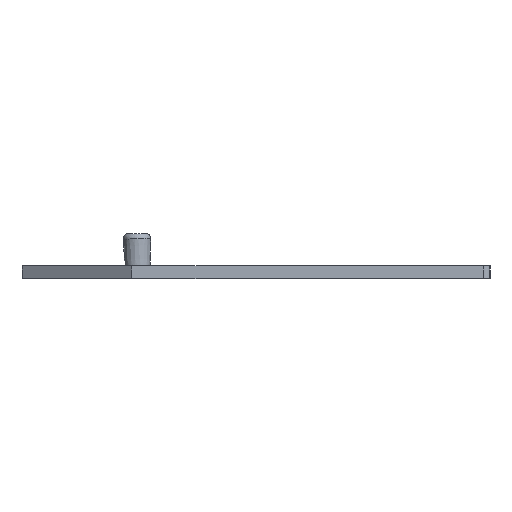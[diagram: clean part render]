
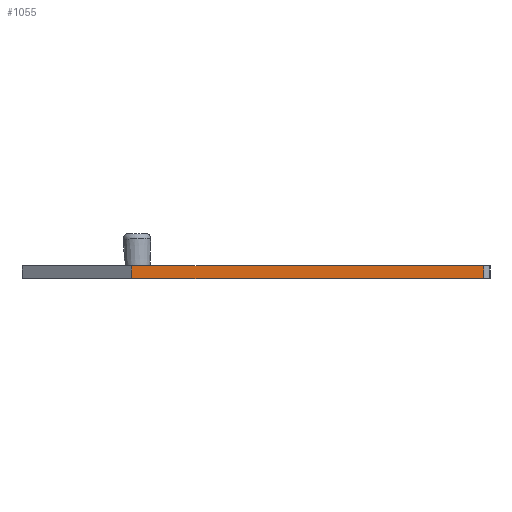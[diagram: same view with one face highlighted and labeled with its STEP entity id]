
A CAD part, left-side view. The second image highlights one B-rep face of the part: STEP entity #1055.
In plain terms, the highlighted planar face has unit normal (-1, 0, 0).
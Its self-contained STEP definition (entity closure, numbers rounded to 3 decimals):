
#1055 = ADVANCED_FACE('',(#1056),#1070,.F.);
#1056 = FACE_BOUND('',#1057,.T.);
#1057 = EDGE_LOOP('',(#1058,#1081,#1097,#1113));
#1058 = ORIENTED_EDGE('',*,*,#1059,.T.);
#1059 = EDGE_CURVE('',#1060,#1062,#1064,.T.);
#1060 = VERTEX_POINT('',#1061);
#1061 = CARTESIAN_POINT('',(7752.136,-62349.163,
    0.));
#1062 = VERTEX_POINT('',#1063);
#1063 = CARTESIAN_POINT('',(7752.136,-62321.732,
    0.));
#1064 = SURFACE_CURVE('',#1065,(#1069),.PCURVE_S1.);
#1065 = LINE('',#1066,#1067);
#1066 = CARTESIAN_POINT('',(7752.136,-62349.163,
    0.));
#1067 = VECTOR('',#1068,1.);
#1068 = DIRECTION('',(0.,1.,0.));
#1069 = PCURVE('',#1070,#1075);
#1070 = PLANE('',#1071);
#1071 = AXIS2_PLACEMENT_3D('',#1072,#1073,#1074);
#1072 = CARTESIAN_POINT('',(7752.136,-62349.163,-1.
    ));
#1073 = DIRECTION('',(1.,0.,0.));
#1074 = DIRECTION('',(0.,0.,-1.));
#1075 = DEFINITIONAL_REPRESENTATION('',(#1076),#1080);
#1076 = LINE('',#1077,#1078);
#1077 = CARTESIAN_POINT('',(-1.,0.));
#1078 = VECTOR('',#1079,1.);
#1079 = DIRECTION('',(0.,1.));
#1080 = ( GEOMETRIC_REPRESENTATION_CONTEXT(2) 
PARAMETRIC_REPRESENTATION_CONTEXT() REPRESENTATION_CONTEXT('2D SPACE',''
  ) );
#1081 = ORIENTED_EDGE('',*,*,#1082,.F.);
#1082 = EDGE_CURVE('',#1083,#1062,#1085,.T.);
#1083 = VERTEX_POINT('',#1084);
#1084 = CARTESIAN_POINT('',(7752.136,-62321.732,-1.
    ));
#1085 = SURFACE_CURVE('',#1086,(#1090),.PCURVE_S1.);
#1086 = LINE('',#1087,#1088);
#1087 = CARTESIAN_POINT('',(7752.136,-62321.732,-1.
    ));
#1088 = VECTOR('',#1089,1.);
#1089 = DIRECTION('',(0.,0.,1.));
#1090 = PCURVE('',#1070,#1091);
#1091 = DEFINITIONAL_REPRESENTATION('',(#1092),#1096);
#1092 = LINE('',#1093,#1094);
#1093 = CARTESIAN_POINT('',(0.,27.431));
#1094 = VECTOR('',#1095,1.);
#1095 = DIRECTION('',(-1.,0.));
#1096 = ( GEOMETRIC_REPRESENTATION_CONTEXT(2) 
PARAMETRIC_REPRESENTATION_CONTEXT() REPRESENTATION_CONTEXT('2D SPACE',''
  ) );
#1097 = ORIENTED_EDGE('',*,*,#1098,.F.);
#1098 = EDGE_CURVE('',#1099,#1083,#1101,.T.);
#1099 = VERTEX_POINT('',#1100);
#1100 = CARTESIAN_POINT('',(7752.136,-62349.163,-1.
    ));
#1101 = SURFACE_CURVE('',#1102,(#1106),.PCURVE_S1.);
#1102 = LINE('',#1103,#1104);
#1103 = CARTESIAN_POINT('',(7752.136,-62349.163,-1.
    ));
#1104 = VECTOR('',#1105,1.);
#1105 = DIRECTION('',(0.,1.,0.));
#1106 = PCURVE('',#1070,#1107);
#1107 = DEFINITIONAL_REPRESENTATION('',(#1108),#1112);
#1108 = LINE('',#1109,#1110);
#1109 = CARTESIAN_POINT('',(0.,0.));
#1110 = VECTOR('',#1111,1.);
#1111 = DIRECTION('',(0.,1.));
#1112 = ( GEOMETRIC_REPRESENTATION_CONTEXT(2) 
PARAMETRIC_REPRESENTATION_CONTEXT() REPRESENTATION_CONTEXT('2D SPACE',''
  ) );
#1113 = ORIENTED_EDGE('',*,*,#1114,.T.);
#1114 = EDGE_CURVE('',#1099,#1060,#1115,.T.);
#1115 = SURFACE_CURVE('',#1116,(#1120),.PCURVE_S1.);
#1116 = LINE('',#1117,#1118);
#1117 = CARTESIAN_POINT('',(7752.136,-62349.163,-1.
    ));
#1118 = VECTOR('',#1119,1.);
#1119 = DIRECTION('',(0.,0.,1.));
#1120 = PCURVE('',#1070,#1121);
#1121 = DEFINITIONAL_REPRESENTATION('',(#1122),#1126);
#1122 = LINE('',#1123,#1124);
#1123 = CARTESIAN_POINT('',(0.,0.));
#1124 = VECTOR('',#1125,1.);
#1125 = DIRECTION('',(-1.,0.));
#1126 = ( GEOMETRIC_REPRESENTATION_CONTEXT(2) 
PARAMETRIC_REPRESENTATION_CONTEXT() REPRESENTATION_CONTEXT('2D SPACE',''
  ) );
